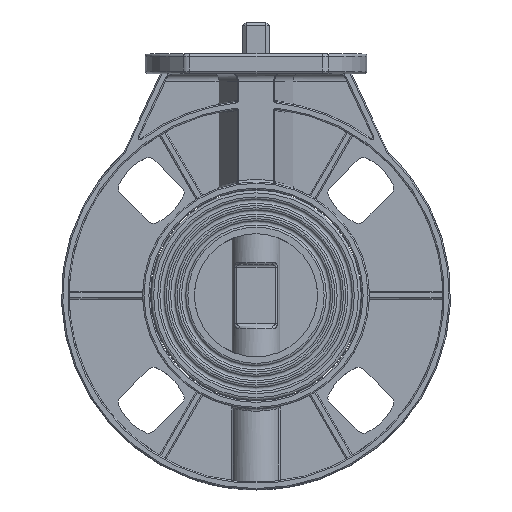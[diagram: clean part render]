
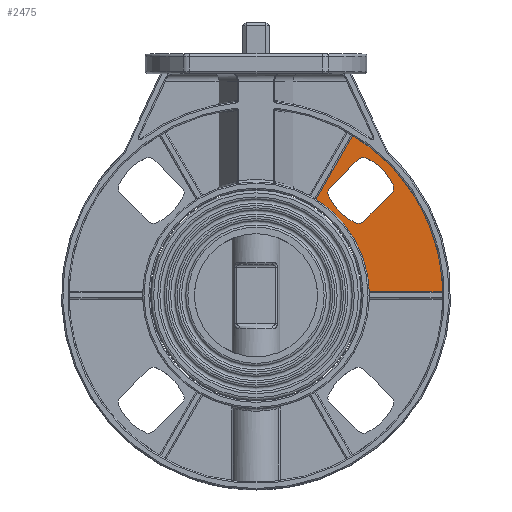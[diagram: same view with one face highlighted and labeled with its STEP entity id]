
A CAD part, top view. The second image highlights one B-rep face of the part: STEP entity #2475.
In plain terms, the highlighted planar face has unit normal (0, 0, 1).
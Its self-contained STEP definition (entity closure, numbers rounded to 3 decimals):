
#2475=ADVANCED_FACE('',(#8024,#8026),#8028,.T.);
#8024=FACE_BOUND('',#8025,.T.);
#8025=EDGE_LOOP('',(#11014,#11015,#11016,#11017));
#8026=FACE_BOUND('',#8027,.T.);
#8027=EDGE_LOOP('',(#11018,#11019,#11020,#11021,#11022,#11023,#11024,#11025));
#8028=PLANE('',#8029);
#8029=AXIS2_PLACEMENT_3D('',#8030,#8031,#8032);
#8030=CARTESIAN_POINT('',(50.136,33.278,3.5));
#8031=DIRECTION('',(0.,0.,1.));
#8032=DIRECTION('',(1.,0.,0.));
#11014=ORIENTED_EDGE('',*,*,#12535,.F.);
#11015=ORIENTED_EDGE('',*,*,#12431,.F.);
#11016=ORIENTED_EDGE('',*,*,#12536,.F.);
#11017=ORIENTED_EDGE('',*,*,#12358,.F.);
#11018=ORIENTED_EDGE('',*,*,#12537,.F.);
#11019=ORIENTED_EDGE('',*,*,#12538,.F.);
#11020=ORIENTED_EDGE('',*,*,#12539,.F.);
#11021=ORIENTED_EDGE('',*,*,#12540,.F.);
#11022=ORIENTED_EDGE('',*,*,#12541,.F.);
#11023=ORIENTED_EDGE('',*,*,#12542,.F.);
#11024=ORIENTED_EDGE('',*,*,#12543,.F.);
#11025=ORIENTED_EDGE('',*,*,#12544,.F.);
#12358=EDGE_CURVE('',#13798,#13800,#13801,.T.);
#12431=EDGE_CURVE('',#13939,#13941,#13942,.T.);
#12535=EDGE_CURVE('',#13941,#13798,#14099,.T.);
#12536=EDGE_CURVE('',#13800,#13939,#14100,.T.);
#12537=EDGE_CURVE('',#14101,#14102,#14103,.T.);
#12538=EDGE_CURVE('',#14104,#14101,#14105,.T.);
#12539=EDGE_CURVE('',#14106,#14104,#14107,.T.);
#12540=EDGE_CURVE('',#14108,#14106,#14109,.T.);
#12541=EDGE_CURVE('',#14110,#14108,#14111,.T.);
#12542=EDGE_CURVE('',#14112,#14110,#14113,.T.);
#12543=EDGE_CURVE('',#14114,#14112,#14115,.T.);
#12544=EDGE_CURVE('',#14102,#14114,#14116,.T.);
#13798=VERTEX_POINT('',#25813);
#13800=VERTEX_POINT('',#25817);
#13801=CIRCLE('',#25818,46.);
#13939=VERTEX_POINT('',#27474);
#13941=VERTEX_POINT('',#27478);
#13942=CIRCLE('',#27479,76.);
#14099=LINE('',#28582,#28583);
#14100=LINE('',#28585,#28586);
#14101=VERTEX_POINT('',#28588);
#14102=VERTEX_POINT('',#28589);
#14103=CIRCLE('',#28590,21.819);
#14104=VERTEX_POINT('',#28594);
#14105=CIRCLE('',#28595,3.);
#14106=VERTEX_POINT('',#28599);
#14107=LINE('',#28600,#28601);
#14108=VERTEX_POINT('',#28603);
#14109=CIRCLE('',#28604,3.);
#14110=VERTEX_POINT('',#28608);
#14111=CIRCLE('',#28609,21.819);
#14112=VERTEX_POINT('',#28613);
#14113=CIRCLE('',#28614,3.);
#14114=VERTEX_POINT('',#28618);
#14115=LINE('',#28619,#28620);
#14116=CIRCLE('',#28622,3.);
#25813=CARTESIAN_POINT('',(45.976,1.5,3.5));
#25817=CARTESIAN_POINT('',(24.287,39.066,3.5));
#25818=AXIS2_PLACEMENT_3D('',#25819,#25820,#25821);
#25819=CARTESIAN_POINT('',(0.,0.,3.5));
#25820=DIRECTION('',(0.,0.,1.));
#25821=DIRECTION('',(0.999,0.033,0.));
#27474=CARTESIAN_POINT('',(39.292,65.055,3.5));
#27478=CARTESIAN_POINT('',(75.985,1.5,3.5));
#27479=AXIS2_PLACEMENT_3D('',#27480,#27481,#27482);
#27480=CARTESIAN_POINT('',(0.,0.,3.5));
#27481=DIRECTION('',(0.,0.,-1.));
#27482=DIRECTION('',(0.517,0.856,0.));
#28582=CARTESIAN_POINT('',(75.985,1.5,3.5));
#28583=VECTOR('',#28584,1.);
#28584=DIRECTION('',(-1.,0.,0.));
#28585=CARTESIAN_POINT('',(24.287,39.066,3.5));
#28586=VECTOR('',#28587,1.);
#28587=DIRECTION('',(0.5,0.866,0.));
#28588=CARTESIAN_POINT('',(29.485,40.388,3.5));
#28589=CARTESIAN_POINT('',(40.388,29.485,3.5));
#28590=AXIS2_PLACEMENT_3D('',#28591,#28592,#28593);
#28591=CARTESIAN_POINT('',(49.369,49.369,3.5));
#28592=DIRECTION('',(0.,0.,1.));
#28593=DIRECTION('',(-0.911,-0.412,0.));
#28594=CARTESIAN_POINT('',(30.097,43.745,3.5));
#28595=AXIS2_PLACEMENT_3D('',#28596,#28597,#28598);
#28596=CARTESIAN_POINT('',(32.219,41.623,3.5));
#28597=DIRECTION('',(0.,0.,1.));
#28598=DIRECTION('',(-0.707,0.707,0.));
#28599=CARTESIAN_POINT('',(41.462,55.109,3.5));
#28600=CARTESIAN_POINT('',(41.462,55.109,3.5));
#28601=VECTOR('',#28602,1.);
#28602=DIRECTION('',(-0.707,-0.707,0.));
#28603=CARTESIAN_POINT('',(44.818,55.722,3.5));
#28604=AXIS2_PLACEMENT_3D('',#28605,#28606,#28607);
#28605=CARTESIAN_POINT('',(43.583,52.988,3.5));
#28606=DIRECTION('',(0.,0.,1.));
#28607=DIRECTION('',(0.412,0.911,0.));
#28608=CARTESIAN_POINT('',(55.722,44.818,3.5));
#28609=AXIS2_PLACEMENT_3D('',#28610,#28611,#28612);
#28610=CARTESIAN_POINT('',(35.837,35.837,3.5));
#28611=DIRECTION('',(0.,0.,1.));
#28612=DIRECTION('',(0.911,0.412,0.));
#28613=CARTESIAN_POINT('',(55.109,41.462,3.5));
#28614=AXIS2_PLACEMENT_3D('',#28615,#28616,#28617);
#28615=CARTESIAN_POINT('',(52.988,43.583,3.5));
#28616=DIRECTION('',(0.,0.,1.));
#28617=DIRECTION('',(0.707,-0.707,0.));
#28618=CARTESIAN_POINT('',(43.745,30.097,3.5));
#28619=CARTESIAN_POINT('',(43.745,30.097,3.5));
#28620=VECTOR('',#28621,1.);
#28621=DIRECTION('',(0.707,0.707,0.));
#28622=AXIS2_PLACEMENT_3D('',#28623,#28624,#28625);
#28623=CARTESIAN_POINT('',(41.623,32.219,3.5));
#28624=DIRECTION('',(0.,0.,1.));
#28625=DIRECTION('',(-0.412,-0.911,0.));
